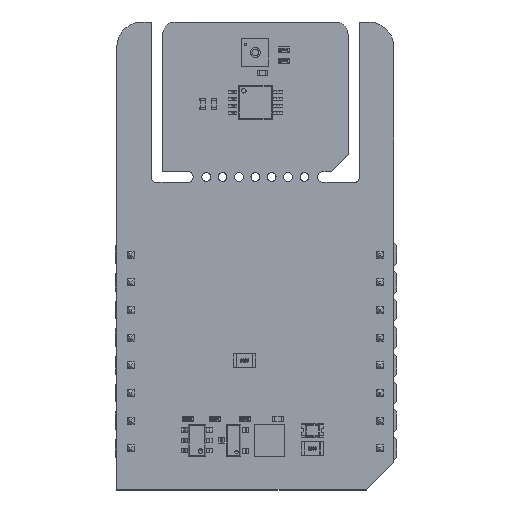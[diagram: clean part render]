
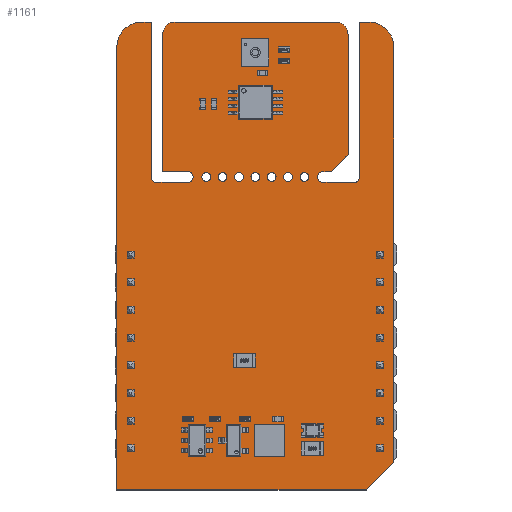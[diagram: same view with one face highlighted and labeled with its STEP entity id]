
A CAD part, top view. The second image highlights one B-rep face of the part: STEP entity #1161.
In plain terms, the highlighted planar face has unit normal (0, 0, 1).
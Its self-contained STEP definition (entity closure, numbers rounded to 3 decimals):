
#124 = VERTEX_POINT('',#125);
#125 = CARTESIAN_POINT('',(1.905,24.8,1.59));
#131 = EDGE_CURVE('',#124,#132,#134,.T.);
#132 = VERTEX_POINT('',#133);
#133 = CARTESIAN_POINT('',(2.305,24.4,1.59));
#134 = CIRCLE('',#135,0.399);
#135 = AXIS2_PLACEMENT_3D('',#136,#137,#138);
#136 = CARTESIAN_POINT('',(2.304,24.799,1.59));
#137 = DIRECTION('',(0.,0.,1.));
#138 = DIRECTION('',(-1.,0.001,0.));
#164 = EDGE_CURVE('',#132,#165,#167,.T.);
#165 = VERTEX_POINT('',#166);
#166 = CARTESIAN_POINT('',(5.23,24.4,1.59));
#167 = LINE('',#168,#169);
#168 = CARTESIAN_POINT('',(2.305,24.4,1.59));
#169 = VECTOR('',#170,1.);
#170 = DIRECTION('',(1.,0.,0.));
#195 = EDGE_CURVE('',#165,#196,#198,.T.);
#196 = VERTEX_POINT('',#197);
#197 = CARTESIAN_POINT('',(5.23,25.4,1.59));
#198 = CIRCLE('',#199,0.5);
#199 = AXIS2_PLACEMENT_3D('',#200,#201,#202);
#200 = CARTESIAN_POINT('',(5.23,24.9,1.59));
#201 = DIRECTION('',(0.,0.,1.));
#202 = DIRECTION('',(-0.,-1.,0.));
#228 = EDGE_CURVE('',#196,#229,#231,.T.);
#229 = VERTEX_POINT('',#230);
#230 = CARTESIAN_POINT('',(2.921,25.4,1.59));
#231 = LINE('',#232,#233);
#232 = CARTESIAN_POINT('',(5.23,25.4,1.59));
#233 = VECTOR('',#234,1.);
#234 = DIRECTION('',(-1.,0.,0.));
#259 = EDGE_CURVE('',#229,#260,#262,.T.);
#260 = VERTEX_POINT('',#261);
#261 = CARTESIAN_POINT('',(2.921,37.973,1.59));
#262 = LINE('',#263,#264);
#263 = CARTESIAN_POINT('',(2.921,25.4,1.59));
#264 = VECTOR('',#265,1.);
#265 = DIRECTION('',(0.,1.,0.));
#290 = EDGE_CURVE('',#260,#291,#293,.T.);
#291 = VERTEX_POINT('',#292);
#292 = CARTESIAN_POINT('',(4.064,39.116,1.59));
#293 = CIRCLE('',#294,1.144);
#294 = AXIS2_PLACEMENT_3D('',#295,#296,#297);
#295 = CARTESIAN_POINT('',(4.065,37.972,1.59));
#296 = DIRECTION('',(0.,0.,-1.));
#297 = DIRECTION('',(-1.,0.001,0.));
#323 = EDGE_CURVE('',#291,#324,#326,.T.);
#324 = VERTEX_POINT('',#325);
#325 = CARTESIAN_POINT('',(18.796,39.116,1.59));
#326 = LINE('',#327,#328);
#327 = CARTESIAN_POINT('',(4.064,39.116,1.59));
#328 = VECTOR('',#329,1.);
#329 = DIRECTION('',(1.,0.,0.));
#354 = EDGE_CURVE('',#324,#355,#357,.T.);
#355 = VERTEX_POINT('',#356);
#356 = CARTESIAN_POINT('',(19.939,37.973,1.59));
#357 = CIRCLE('',#358,1.144);
#358 = AXIS2_PLACEMENT_3D('',#359,#360,#361);
#359 = CARTESIAN_POINT('',(18.795,37.972,1.59));
#360 = DIRECTION('',(0.,0.,-1.));
#361 = DIRECTION('',(0.001,1.,0.));
#387 = EDGE_CURVE('',#355,#388,#390,.T.);
#388 = VERTEX_POINT('',#389);
#389 = CARTESIAN_POINT('',(19.939,26.924,1.59));
#390 = LINE('',#391,#392);
#391 = CARTESIAN_POINT('',(19.939,37.973,1.59));
#392 = VECTOR('',#393,1.);
#393 = DIRECTION('',(0.,-1.,0.));
#418 = EDGE_CURVE('',#388,#419,#421,.T.);
#419 = VERTEX_POINT('',#420);
#420 = CARTESIAN_POINT('',(18.415,25.4,1.59));
#421 = LINE('',#422,#423);
#422 = CARTESIAN_POINT('',(19.939,26.924,1.59));
#423 = VECTOR('',#424,1.);
#424 = DIRECTION('',(-0.707,-0.707,0.));
#449 = EDGE_CURVE('',#419,#450,#452,.T.);
#450 = VERTEX_POINT('',#451);
#451 = CARTESIAN_POINT('',(17.63,25.4,1.59));
#452 = LINE('',#453,#454);
#453 = CARTESIAN_POINT('',(18.415,25.4,1.59));
#454 = VECTOR('',#455,1.);
#455 = DIRECTION('',(-1.,0.,0.));
#480 = EDGE_CURVE('',#450,#481,#483,.T.);
#481 = VERTEX_POINT('',#482);
#482 = CARTESIAN_POINT('',(17.63,24.4,1.59));
#483 = CIRCLE('',#484,0.5);
#484 = AXIS2_PLACEMENT_3D('',#485,#486,#487);
#485 = CARTESIAN_POINT('',(17.63,24.9,1.59));
#486 = DIRECTION('',(0.,-0.,1.));
#487 = DIRECTION('',(0.,1.,0.));
#513 = EDGE_CURVE('',#481,#514,#516,.T.);
#514 = VERTEX_POINT('',#515);
#515 = CARTESIAN_POINT('',(20.555,24.4,1.59));
#516 = LINE('',#517,#518);
#517 = CARTESIAN_POINT('',(17.63,24.4,1.59));
#518 = VECTOR('',#519,1.);
#519 = DIRECTION('',(1.,0.,0.));
#544 = EDGE_CURVE('',#514,#545,#547,.T.);
#545 = VERTEX_POINT('',#546);
#546 = CARTESIAN_POINT('',(20.955,24.8,1.59));
#547 = CIRCLE('',#548,0.399);
#548 = AXIS2_PLACEMENT_3D('',#549,#550,#551);
#549 = CARTESIAN_POINT('',(20.556,24.799,1.59));
#550 = DIRECTION('',(0.,0.,1.));
#551 = DIRECTION('',(-0.001,-1.,0.));
#577 = EDGE_CURVE('',#545,#578,#580,.T.);
#578 = VERTEX_POINT('',#579);
#579 = CARTESIAN_POINT('',(20.955,39.116,1.59));
#580 = LINE('',#581,#582);
#581 = CARTESIAN_POINT('',(20.955,24.8,1.59));
#582 = VECTOR('',#583,1.);
#583 = DIRECTION('',(0.,1.,0.));
#608 = EDGE_CURVE('',#578,#609,#611,.T.);
#609 = VERTEX_POINT('',#610);
#610 = CARTESIAN_POINT('',(21.844,39.116,1.59));
#611 = LINE('',#612,#613);
#612 = CARTESIAN_POINT('',(20.955,39.116,1.59));
#613 = VECTOR('',#614,1.);
#614 = DIRECTION('',(1.,0.,0.));
#639 = EDGE_CURVE('',#609,#640,#642,.T.);
#640 = VERTEX_POINT('',#641);
#641 = CARTESIAN_POINT('',(24.13,36.83,1.59));
#642 = CIRCLE('',#643,2.288);
#643 = AXIS2_PLACEMENT_3D('',#644,#645,#646);
#644 = CARTESIAN_POINT('',(21.842,36.828,1.59));
#645 = DIRECTION('',(0.,0.,-1.));
#646 = DIRECTION('',(0.001,1.,0.));
#672 = EDGE_CURVE('',#640,#673,#675,.T.);
#673 = VERTEX_POINT('',#674);
#674 = CARTESIAN_POINT('',(24.13,-1.27,1.59));
#675 = LINE('',#676,#677);
#676 = CARTESIAN_POINT('',(24.13,36.83,1.59));
#677 = VECTOR('',#678,1.);
#678 = DIRECTION('',(0.,-1.,0.));
#703 = EDGE_CURVE('',#673,#704,#706,.T.);
#704 = VERTEX_POINT('',#705);
#705 = CARTESIAN_POINT('',(21.59,-3.81,1.59));
#706 = LINE('',#707,#708);
#707 = CARTESIAN_POINT('',(24.13,-1.27,1.59));
#708 = VECTOR('',#709,1.);
#709 = DIRECTION('',(-0.707,-0.707,0.));
#734 = EDGE_CURVE('',#704,#735,#737,.T.);
#735 = VERTEX_POINT('',#736);
#736 = CARTESIAN_POINT('',(-1.27,-3.81,1.59));
#737 = LINE('',#738,#739);
#738 = CARTESIAN_POINT('',(21.59,-3.81,1.59));
#739 = VECTOR('',#740,1.);
#740 = DIRECTION('',(-1.,0.,0.));
#765 = EDGE_CURVE('',#735,#766,#768,.T.);
#766 = VERTEX_POINT('',#767);
#767 = CARTESIAN_POINT('',(-1.27,36.83,1.59));
#768 = LINE('',#769,#770);
#769 = CARTESIAN_POINT('',(-1.27,-3.81,1.59));
#770 = VECTOR('',#771,1.);
#771 = DIRECTION('',(0.,1.,0.));
#796 = EDGE_CURVE('',#766,#797,#799,.T.);
#797 = VERTEX_POINT('',#798);
#798 = CARTESIAN_POINT('',(1.016,39.116,1.59));
#799 = CIRCLE('',#800,2.288);
#800 = AXIS2_PLACEMENT_3D('',#801,#802,#803);
#801 = CARTESIAN_POINT('',(1.018,36.828,1.59));
#802 = DIRECTION('',(0.,0.,-1.));
#803 = DIRECTION('',(-1.,0.001,0.));
#829 = EDGE_CURVE('',#797,#830,#832,.T.);
#830 = VERTEX_POINT('',#831);
#831 = CARTESIAN_POINT('',(1.905,39.116,1.59));
#832 = LINE('',#833,#834);
#833 = CARTESIAN_POINT('',(1.016,39.116,1.59));
#834 = VECTOR('',#835,1.);
#835 = DIRECTION('',(1.,0.,0.));
#860 = EDGE_CURVE('',#830,#124,#861,.T.);
#861 = LINE('',#862,#863);
#862 = CARTESIAN_POINT('',(1.905,39.116,1.59));
#863 = VECTOR('',#864,1.);
#864 = DIRECTION('',(0.,-1.,0.));
#884 = VERTEX_POINT('',#885);
#885 = CARTESIAN_POINT('',(10.33,24.9,1.59));
#891 = EDGE_CURVE('',#884,#884,#892,.T.);
#892 = CIRCLE('',#893,0.4);
#893 = AXIS2_PLACEMENT_3D('',#894,#895,#896);
#894 = CARTESIAN_POINT('',(9.93,24.9,1.59));
#895 = DIRECTION('',(0.,0.,1.));
#896 = DIRECTION('',(1.,0.,-0.));
#917 = VERTEX_POINT('',#918);
#918 = CARTESIAN_POINT('',(7.33,24.9,1.59));
#924 = EDGE_CURVE('',#917,#917,#925,.T.);
#925 = CIRCLE('',#926,0.4);
#926 = AXIS2_PLACEMENT_3D('',#927,#928,#929);
#927 = CARTESIAN_POINT('',(6.93,24.9,1.59));
#928 = DIRECTION('',(0.,0.,1.));
#929 = DIRECTION('',(1.,0.,-0.));
#950 = VERTEX_POINT('',#951);
#951 = CARTESIAN_POINT('',(8.83,24.9,1.59));
#957 = EDGE_CURVE('',#950,#950,#958,.T.);
#958 = CIRCLE('',#959,0.4);
#959 = AXIS2_PLACEMENT_3D('',#960,#961,#962);
#960 = CARTESIAN_POINT('',(8.43,24.9,1.59));
#961 = DIRECTION('',(0.,0.,1.));
#962 = DIRECTION('',(1.,0.,-0.));
#983 = VERTEX_POINT('',#984);
#984 = CARTESIAN_POINT('',(14.83,24.9,1.59));
#990 = EDGE_CURVE('',#983,#983,#991,.T.);
#991 = CIRCLE('',#992,0.4);
#992 = AXIS2_PLACEMENT_3D('',#993,#994,#995);
#993 = CARTESIAN_POINT('',(14.43,24.9,1.59));
#994 = DIRECTION('',(0.,0.,1.));
#995 = DIRECTION('',(1.,0.,-0.));
#1016 = VERTEX_POINT('',#1017);
#1017 = CARTESIAN_POINT('',(16.33,24.9,1.59));
#1023 = EDGE_CURVE('',#1016,#1016,#1024,.T.);
#1024 = CIRCLE('',#1025,0.4);
#1025 = AXIS2_PLACEMENT_3D('',#1026,#1027,#1028);
#1026 = CARTESIAN_POINT('',(15.93,24.9,1.59));
#1027 = DIRECTION('',(0.,0.,1.));
#1028 = DIRECTION('',(1.,0.,-0.));
#1049 = VERTEX_POINT('',#1050);
#1050 = CARTESIAN_POINT('',(11.83,24.9,1.59));
#1056 = EDGE_CURVE('',#1049,#1049,#1057,.T.);
#1057 = CIRCLE('',#1058,0.4);
#1058 = AXIS2_PLACEMENT_3D('',#1059,#1060,#1061);
#1059 = CARTESIAN_POINT('',(11.43,24.9,1.59));
#1060 = DIRECTION('',(0.,0.,1.));
#1061 = DIRECTION('',(1.,0.,-0.));
#1082 = VERTEX_POINT('',#1083);
#1083 = CARTESIAN_POINT('',(13.33,24.9,1.59));
#1089 = EDGE_CURVE('',#1082,#1082,#1090,.T.);
#1090 = CIRCLE('',#1091,0.4);
#1091 = AXIS2_PLACEMENT_3D('',#1092,#1093,#1094);
#1092 = CARTESIAN_POINT('',(12.93,24.9,1.59));
#1093 = DIRECTION('',(0.,0.,1.));
#1094 = DIRECTION('',(1.,0.,-0.));
#1161 = ADVANCED_FACE('',(#1162,#1188,#1191,#1194,#1197,#1200,#1203,
    #1206),#1209,.F.);
#1162 = FACE_BOUND('',#1163,.F.);
#1163 = EDGE_LOOP('',(#1164,#1165,#1166,#1167,#1168,#1169,#1170,#1171,
    #1172,#1173,#1174,#1175,#1176,#1177,#1178,#1179,#1180,#1181,#1182,
    #1183,#1184,#1185,#1186,#1187));
#1164 = ORIENTED_EDGE('',*,*,#131,.T.);
#1165 = ORIENTED_EDGE('',*,*,#164,.T.);
#1166 = ORIENTED_EDGE('',*,*,#195,.T.);
#1167 = ORIENTED_EDGE('',*,*,#228,.T.);
#1168 = ORIENTED_EDGE('',*,*,#259,.T.);
#1169 = ORIENTED_EDGE('',*,*,#290,.T.);
#1170 = ORIENTED_EDGE('',*,*,#323,.T.);
#1171 = ORIENTED_EDGE('',*,*,#354,.T.);
#1172 = ORIENTED_EDGE('',*,*,#387,.T.);
#1173 = ORIENTED_EDGE('',*,*,#418,.T.);
#1174 = ORIENTED_EDGE('',*,*,#449,.T.);
#1175 = ORIENTED_EDGE('',*,*,#480,.T.);
#1176 = ORIENTED_EDGE('',*,*,#513,.T.);
#1177 = ORIENTED_EDGE('',*,*,#544,.T.);
#1178 = ORIENTED_EDGE('',*,*,#577,.T.);
#1179 = ORIENTED_EDGE('',*,*,#608,.T.);
#1180 = ORIENTED_EDGE('',*,*,#639,.T.);
#1181 = ORIENTED_EDGE('',*,*,#672,.T.);
#1182 = ORIENTED_EDGE('',*,*,#703,.T.);
#1183 = ORIENTED_EDGE('',*,*,#734,.T.);
#1184 = ORIENTED_EDGE('',*,*,#765,.T.);
#1185 = ORIENTED_EDGE('',*,*,#796,.T.);
#1186 = ORIENTED_EDGE('',*,*,#829,.T.);
#1187 = ORIENTED_EDGE('',*,*,#860,.T.);
#1188 = FACE_BOUND('',#1189,.F.);
#1189 = EDGE_LOOP('',(#1190));
#1190 = ORIENTED_EDGE('',*,*,#891,.T.);
#1191 = FACE_BOUND('',#1192,.F.);
#1192 = EDGE_LOOP('',(#1193));
#1193 = ORIENTED_EDGE('',*,*,#924,.T.);
#1194 = FACE_BOUND('',#1195,.F.);
#1195 = EDGE_LOOP('',(#1196));
#1196 = ORIENTED_EDGE('',*,*,#957,.T.);
#1197 = FACE_BOUND('',#1198,.F.);
#1198 = EDGE_LOOP('',(#1199));
#1199 = ORIENTED_EDGE('',*,*,#990,.T.);
#1200 = FACE_BOUND('',#1201,.F.);
#1201 = EDGE_LOOP('',(#1202));
#1202 = ORIENTED_EDGE('',*,*,#1023,.T.);
#1203 = FACE_BOUND('',#1204,.F.);
#1204 = EDGE_LOOP('',(#1205));
#1205 = ORIENTED_EDGE('',*,*,#1056,.T.);
#1206 = FACE_BOUND('',#1207,.F.);
#1207 = EDGE_LOOP('',(#1208));
#1208 = ORIENTED_EDGE('',*,*,#1089,.T.);
#1209 = PLANE('',#1210);
#1210 = AXIS2_PLACEMENT_3D('',#1211,#1212,#1213);
#1211 = CARTESIAN_POINT('',(11.288,21.814,1.59));
#1212 = DIRECTION('',(-0.,-0.,-1.));
#1213 = DIRECTION('',(-1.,0.,0.));
